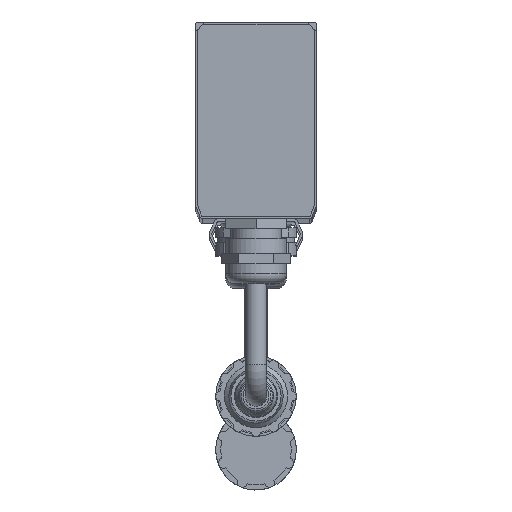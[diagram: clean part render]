
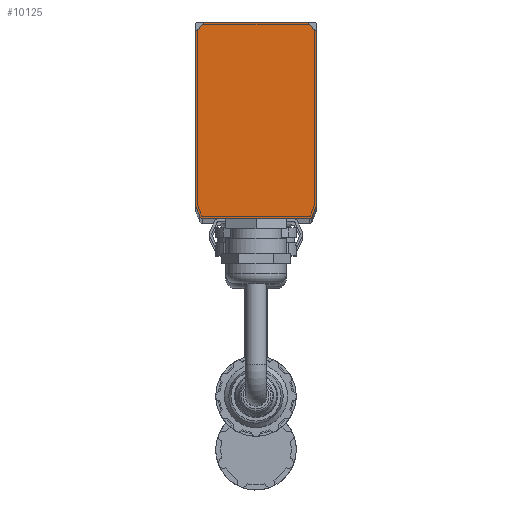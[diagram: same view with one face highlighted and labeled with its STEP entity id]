
A CAD part, top view. The second image highlights one B-rep face of the part: STEP entity #10125.
In plain terms, the highlighted planar face has unit normal (0, 0, 1).
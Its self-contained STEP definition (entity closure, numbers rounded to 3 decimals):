
#344=PLANE('',#10969);
#738=LINE('',#15381,#1210);
#739=LINE('',#15386,#1211);
#740=LINE('',#15390,#1212);
#741=LINE('',#15394,#1213);
#742=LINE('',#15398,#1214);
#743=LINE('',#15402,#1215);
#744=LINE('',#15406,#1216);
#745=LINE('',#15410,#1217);
#1210=VECTOR('',#12993,1000.);
#1211=VECTOR('',#12996,1000.);
#1212=VECTOR('',#12999,1000.);
#1213=VECTOR('',#13002,1000.);
#1214=VECTOR('',#13005,1000.);
#1215=VECTOR('',#13008,1000.);
#1216=VECTOR('',#13011,1000.);
#1217=VECTOR('',#13014,1000.);
#2972=ORIENTED_EDGE('',*,*,#4165,.T.);
#2973=ORIENTED_EDGE('',*,*,#4166,.T.);
#2974=ORIENTED_EDGE('',*,*,#4167,.T.);
#2975=ORIENTED_EDGE('',*,*,#4168,.T.);
#2976=ORIENTED_EDGE('',*,*,#4169,.T.);
#2977=ORIENTED_EDGE('',*,*,#4170,.T.);
#2978=ORIENTED_EDGE('',*,*,#4171,.T.);
#2979=ORIENTED_EDGE('',*,*,#4172,.T.);
#2980=ORIENTED_EDGE('',*,*,#4173,.T.);
#2981=ORIENTED_EDGE('',*,*,#4174,.T.);
#2982=ORIENTED_EDGE('',*,*,#4175,.T.);
#2983=ORIENTED_EDGE('',*,*,#4176,.T.);
#2984=ORIENTED_EDGE('',*,*,#4177,.T.);
#2985=ORIENTED_EDGE('',*,*,#4178,.T.);
#2986=ORIENTED_EDGE('',*,*,#4179,.T.);
#2987=ORIENTED_EDGE('',*,*,#4180,.T.);
#4165=EDGE_CURVE('',#4921,#4922,#738,.T.);
#4166=EDGE_CURVE('',#4922,#4923,#5425,.T.);
#4167=EDGE_CURVE('',#4923,#4924,#739,.T.);
#4168=EDGE_CURVE('',#4924,#4925,#5426,.T.);
#4169=EDGE_CURVE('',#4925,#4926,#740,.T.);
#4170=EDGE_CURVE('',#4926,#4927,#5427,.T.);
#4171=EDGE_CURVE('',#4927,#4928,#741,.T.);
#4172=EDGE_CURVE('',#4928,#4929,#5428,.T.);
#4173=EDGE_CURVE('',#4929,#4930,#742,.T.);
#4174=EDGE_CURVE('',#4930,#4931,#5429,.T.);
#4175=EDGE_CURVE('',#4931,#4932,#743,.T.);
#4176=EDGE_CURVE('',#4932,#4933,#5430,.T.);
#4177=EDGE_CURVE('',#4933,#4934,#744,.T.);
#4178=EDGE_CURVE('',#4934,#4935,#5431,.T.);
#4179=EDGE_CURVE('',#4935,#4936,#745,.T.);
#4180=EDGE_CURVE('',#4936,#4921,#5432,.T.);
#4921=VERTEX_POINT('',#15382);
#4922=VERTEX_POINT('',#15383);
#4923=VERTEX_POINT('',#15385);
#4924=VERTEX_POINT('',#15387);
#4925=VERTEX_POINT('',#15389);
#4926=VERTEX_POINT('',#15391);
#4927=VERTEX_POINT('',#15393);
#4928=VERTEX_POINT('',#15395);
#4929=VERTEX_POINT('',#15397);
#4930=VERTEX_POINT('',#15399);
#4931=VERTEX_POINT('',#15401);
#4932=VERTEX_POINT('',#15403);
#4933=VERTEX_POINT('',#15405);
#4934=VERTEX_POINT('',#15407);
#4935=VERTEX_POINT('',#15409);
#4936=VERTEX_POINT('',#15411);
#5425=CIRCLE('',#10970,0.2);
#5426=CIRCLE('',#10971,0.2);
#5427=CIRCLE('',#10972,0.2);
#5428=CIRCLE('',#10973,0.2);
#5429=CIRCLE('',#10974,0.5);
#5430=CIRCLE('',#10975,0.5);
#5431=CIRCLE('',#10976,0.5);
#5432=CIRCLE('',#10977,0.5);
#5968=EDGE_LOOP('',(#2972,#2973,#2974,#2975,#2976,#2977,#2978,#2979,#2980,
#2981,#2982,#2983,#2984,#2985,#2986,#2987));
#6529=FACE_BOUND('',#5968,.T.);
#10125=ADVANCED_FACE('',(#6529),#344,.T.);
#10969=AXIS2_PLACEMENT_3D('',#15380,#12991,#12992);
#10970=AXIS2_PLACEMENT_3D('',#15384,#12994,#12995);
#10971=AXIS2_PLACEMENT_3D('',#15388,#12997,#12998);
#10972=AXIS2_PLACEMENT_3D('',#15392,#13000,#13001);
#10973=AXIS2_PLACEMENT_3D('',#15396,#13003,#13004);
#10974=AXIS2_PLACEMENT_3D('',#15400,#13006,#13007);
#10975=AXIS2_PLACEMENT_3D('',#15404,#13009,#13010);
#10976=AXIS2_PLACEMENT_3D('',#15408,#13012,#13013);
#10977=AXIS2_PLACEMENT_3D('',#15412,#13015,#13016);
#12991=DIRECTION('',(0.,0.,1.));
#12992=DIRECTION('',(1.,0.,0.));
#12993=DIRECTION('',(0.,1.,0.));
#12994=DIRECTION('',(0.,0.,1.));
#12995=DIRECTION('',(1.,0.,0.));
#12996=DIRECTION('',(-0.707,0.707,0.));
#12997=DIRECTION('',(0.,0.,1.));
#12998=DIRECTION('',(1.,0.,0.));
#12999=DIRECTION('',(-1.,0.,0.));
#13000=DIRECTION('',(0.,0.,1.));
#13001=DIRECTION('',(1.,0.,0.));
#13002=DIRECTION('',(-0.707,-0.707,0.));
#13003=DIRECTION('',(0.,0.,1.));
#13004=DIRECTION('',(1.,0.,0.));
#13005=DIRECTION('',(0.,-1.,0.));
#13006=DIRECTION('',(0.,0.,1.));
#13007=DIRECTION('',(-1.,0.,0.));
#13008=DIRECTION('',(0.371,-0.928,0.));
#13009=DIRECTION('',(0.,0.,1.));
#13010=DIRECTION('',(-0.928,-0.371,0.));
#13011=DIRECTION('',(1.,0.,0.));
#13012=DIRECTION('',(0.,0.,1.));
#13013=DIRECTION('',(0.,-1.,0.));
#13014=DIRECTION('',(0.371,0.928,0.));
#13015=DIRECTION('',(0.,0.,1.));
#13016=DIRECTION('',(0.928,-0.371,0.));
#15380=CARTESIAN_POINT('',(0.,54.99,-576.85));
#15381=CARTESIAN_POINT('',(12.,38.086,-576.85));
#15382=CARTESIAN_POINT('',(12.,38.086,-576.85));
#15383=CARTESIAN_POINT('',(12.,72.507,-576.85));
#15384=CARTESIAN_POINT('',(11.8,72.507,-576.85));
#15385=CARTESIAN_POINT('',(11.941,72.649,-576.85));
#15386=CARTESIAN_POINT('',(14.8,69.79,-576.85));
#15387=CARTESIAN_POINT('',(10.159,74.432,-576.85));
#15388=CARTESIAN_POINT('',(10.017,74.29,-576.85));
#15389=CARTESIAN_POINT('',(10.017,74.49,-576.85));
#15390=CARTESIAN_POINT('',(11.5,74.49,-576.85));
#15391=CARTESIAN_POINT('',(-10.017,74.49,-576.85));
#15392=CARTESIAN_POINT('',(-10.017,74.29,-576.85));
#15393=CARTESIAN_POINT('',(-10.159,74.432,-576.85));
#15394=CARTESIAN_POINT('',(-14.8,69.79,-576.85));
#15395=CARTESIAN_POINT('',(-11.941,72.649,-576.85));
#15396=CARTESIAN_POINT('',(-11.8,72.507,-576.85));
#15397=CARTESIAN_POINT('',(-12.,72.507,-576.85));
#15398=CARTESIAN_POINT('',(-12.,73.99,-576.85));
#15399=CARTESIAN_POINT('',(-12.,38.086,-576.85));
#15400=CARTESIAN_POINT('',(-11.5,38.086,-576.85));
#15401=CARTESIAN_POINT('',(-11.964,37.901,-576.85));
#15402=CARTESIAN_POINT('',(-11.964,37.901,-576.85));
#15403=CARTESIAN_POINT('',(-11.126,35.804,-576.85));
#15404=CARTESIAN_POINT('',(-10.661,35.99,-576.85));
#15405=CARTESIAN_POINT('',(-10.661,35.49,-576.85));
#15406=CARTESIAN_POINT('',(-10.661,35.49,-576.85));
#15407=CARTESIAN_POINT('',(10.661,35.49,-576.85));
#15408=CARTESIAN_POINT('',(10.661,35.99,-576.85));
#15409=CARTESIAN_POINT('',(11.126,35.804,-576.85));
#15410=CARTESIAN_POINT('',(11.126,35.804,-576.85));
#15411=CARTESIAN_POINT('',(11.964,37.901,-576.85));
#15412=CARTESIAN_POINT('',(11.5,38.086,-576.85));
